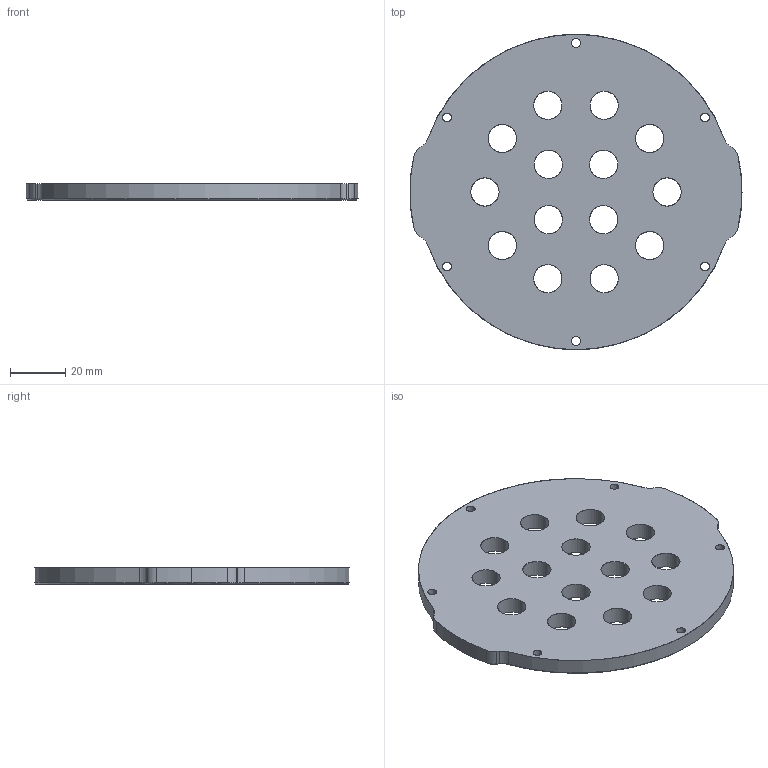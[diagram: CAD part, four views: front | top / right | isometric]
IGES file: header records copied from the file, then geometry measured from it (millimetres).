
Start section: SolidWorks IGES file using analytic representation for surfaces
Global section: file name: C:\Users\Jonathan\Dropbox\BR-Engineering\Models\WTE-4-X2A -PUBLIC\WTE-M-END-CAP-14X10MM-R1\WTE4-M-END-CAP-14X10MM-R1.IGS; native system: SolidWorks 2014; preprocessor: SolidWorks 2014; author: Jonathan; date: 160812.092006; units: millimetre
Bounding box: 120.3 x 114.3 x 6 mm (x, y, z)
Surface area: 23670.7 mm2 (no closed solid volume)
Topology: 0 solids, 0 shells, 76 faces, 1730 edges, 1730 vertices
Faces by surface type: revolution 66, bspline 10
